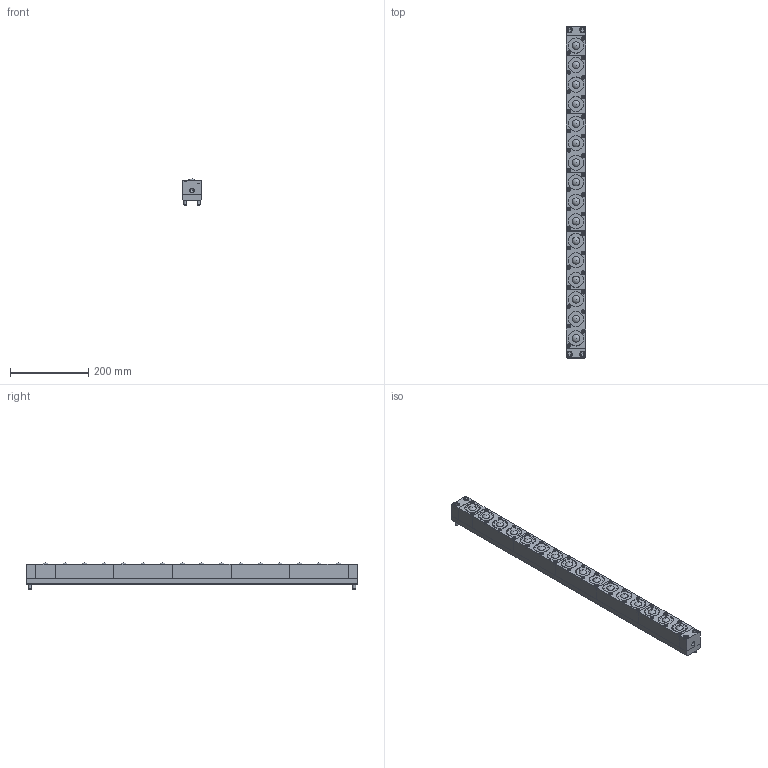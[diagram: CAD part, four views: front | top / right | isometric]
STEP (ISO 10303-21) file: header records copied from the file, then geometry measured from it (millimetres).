
FILE_DESCRIPTION(/* description */ (''),/* implementation_level */ '2;1');
FILE_NAME(/* name */ 'Z:\34-Tei\01-web 3Dデータ\41-ISR-50S型\ISR-50S-850-A.stp',/* time_stamp */ '2015-01-16T09:32:36+09:00',/* author */ ('yamaki'),/* organization */ (''),/* preprocessor_version */ 'ST-DEVELOPER v15.6',/* originating_system */ 'Autodesk Inventor 2015',/* authorisation */ '');
FILE_SCHEMA (('AUTOMOTIVE_DESIGN { 1 0 10303 214 3 1 1 }'));
Length unit declared in the file: millimetre
Products named in the file (6): 4200AT-01-850; 六角穴付きボルト-M8x55; 4200AT-02; 4200AT-00; 4200AT-03; ISR-50S
Bounding box: 49.5 x 850 x 67 mm (x, y, z)
Volume: 2065189.9 mm3; surface area: 484603 mm2
Topology: 25 solids, 25 shells, 794 faces, 1647 edges, 1058 vertices
Faces by surface type: plane 513, cylinder 157, cone 70, torus 38, sphere 16
Full cylindrical faces by diameter (mm): 8 x2, 8.5 x32, 9 x2, 9.5 x32, 10.5 x1, 13 x4, 14.5 x4, 31.7 x16, 38.5 x16, 39 x16, 42 x32
Entity records: 6070 total; most frequent: CARTESIAN_POINT 1085, DIRECTION 980, ORIENTED_EDGE 834, EDGE_CURVE 417, AXIS2_PLACEMENT_3D 356, EDGE_LOOP 336, VERTEX_POINT 299, LINE 268
